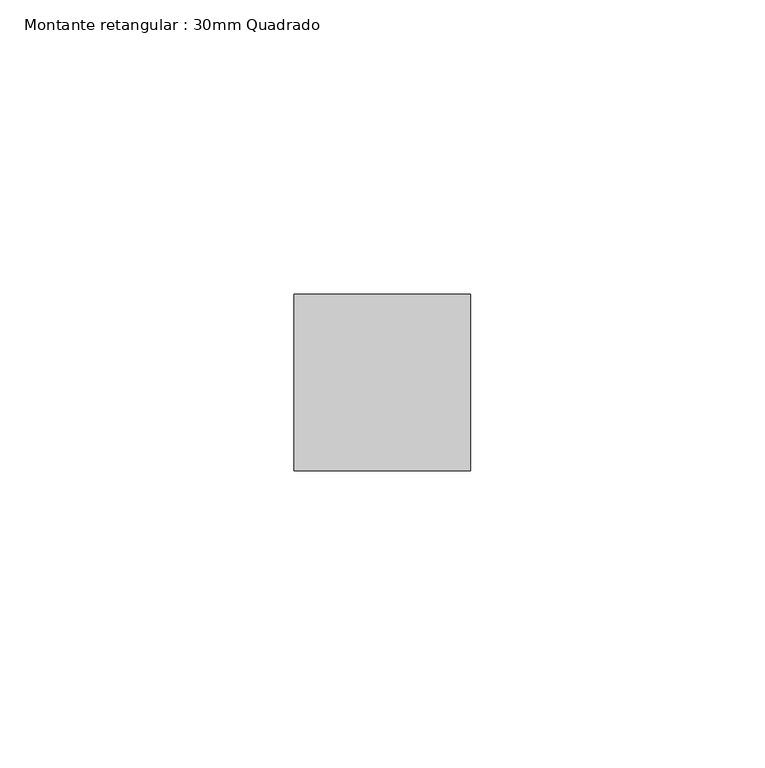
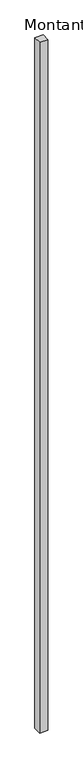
"""IFC4 building model written with IfcOpenShell, lengths in millimetres: member geometry, Montante retangular : 30mm Quadrado."""

from ifc_helpers import new_model, si_unit, frame, origin, place, context, project, spatial, polyline, outline, extrude, source, transform, mapped, element, save


def montante_retangular_30mm_quadrado_b2bf4f86(model_context):
    return source(origin(), model_context, "Body", "SweptSolid", [
        extrude(outline(polyline([(0.0, 15.0), (0.0, -15.0), (-30.0, -15.0), (-30.0, 15.0), (0.0, 15.0)])), frame((0.0, 0.0, -2700.0), z_axis=(0.0, 0.0, 1.0), x_axis=(1.0, 0.0, 0.0)), (0.0, 0.0, 1.0), 2700.0),
    ])


if __name__ == "__main__":
    model = new_model("IFC4")
    model_context = context("Model", 3, world=origin())
    ifc_project = project(units=[si_unit("LENGTHUNIT", "METRE", prefix="MILLI")], contexts=[model_context])
    site = spatial("IfcSite", under=ifc_project)
    building = spatial("IfcBuilding", under=site)
    placement = place(None, origin())
    montante_retangular_30mm_quadrado_shape = montante_retangular_30mm_quadrado_b2bf4f86(model_context)
    element("IfcMember", 1, ObjectType="Montante retangular : 30mm Quadrado", at=placement, inside=building, context=model_context, shape_type="MappedRepresentation", body=[
        mapped(montante_retangular_30mm_quadrado_shape, transform((0.0, 0.0, 0.0), x_axis=(1.0, 0.0, 0.0), y_axis=(0.0, 1.0, 0.0), z_axis=(0.0, 0.0, 1.0))),
    ])
    save(model, "model.ifc")
